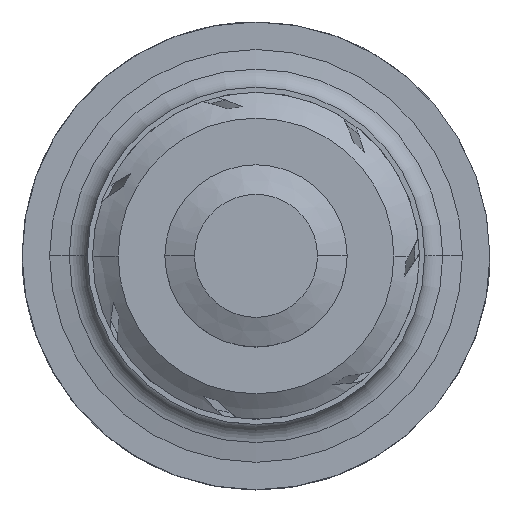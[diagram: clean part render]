
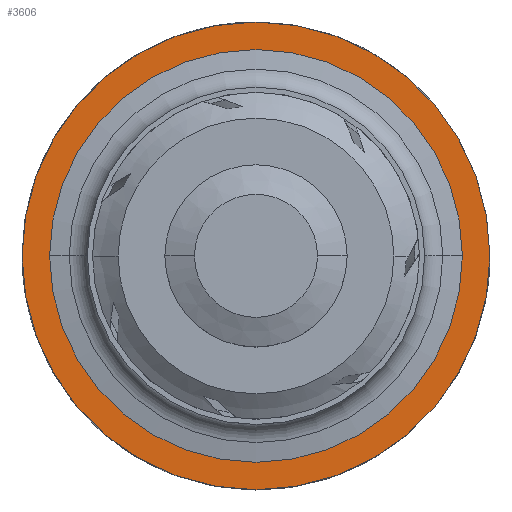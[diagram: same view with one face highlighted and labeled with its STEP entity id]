
A CAD part, top view. The second image highlights one B-rep face of the part: STEP entity #3606.
In plain terms, the highlighted planar face has unit normal (0, 0, 1).
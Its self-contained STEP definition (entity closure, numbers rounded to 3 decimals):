
#28 = CIRCLE ( 'NONE', #3179, 83.832 ) ;
#137 = DIRECTION ( 'NONE',  ( 1., 0., 0. ) ) ;
#318 = PLANE ( 'NONE',  #2038 ) ;
#783 = CARTESIAN_POINT ( 'NONE',  ( -95., 0., 70.5 ) ) ;
#1080 = ORIENTED_EDGE ( 'NONE', *, *, #3184, .T. ) ;
#1111 = CIRCLE ( 'NONE', #2235, 95. ) ;
#1631 = CARTESIAN_POINT ( 'NONE',  ( 0., 95., 70.5 ) ) ;
#1742 = DIRECTION ( 'NONE',  ( 1., 0., 0. ) ) ;
#2038 = AXIS2_PLACEMENT_3D ( 'NONE', #1631, #9118, #12013 ) ;
#2235 = AXIS2_PLACEMENT_3D ( 'NONE', #7133, #10233, #1742 ) ;
#2600 = EDGE_LOOP ( 'NONE', ( #2678, #6849 ) ) ;
#2606 = EDGE_CURVE ( 'NONE', #7968, #6678, #28, .T. ) ;
#2671 = FACE_OUTER_BOUND ( 'NONE', #9148, .T. ) ;
#2678 = ORIENTED_EDGE ( 'NONE', *, *, #5670, .F. ) ;
#2860 = DIRECTION ( 'NONE',  ( 0., 0., 1. ) ) ;
#3179 = AXIS2_PLACEMENT_3D ( 'NONE', #13470, #2860, #5942 ) ;
#3184 = EDGE_CURVE ( 'NONE', #11132, #13882, #5594, .T. ) ;
#3606 = ADVANCED_FACE ( 'NONE', ( #2671, #6947 ), #318, .F. ) ;
#4031 = EDGE_CURVE ( 'NONE', #13882, #11132, #1111, .T. ) ;
#4744 = CIRCLE ( 'NONE', #12607, 83.832 ) ;
#5447 = CARTESIAN_POINT ( 'NONE',  ( 0., 0., 70.5 ) ) ;
#5594 = CIRCLE ( 'NONE', #11659, 95. ) ;
#5670 = EDGE_CURVE ( 'NONE', #6678, #7968, #4744, .T. ) ;
#5942 = DIRECTION ( 'NONE',  ( 1., 0., 0. ) ) ;
#6028 = CARTESIAN_POINT ( 'NONE',  ( -83.832, 0., 70.5 ) ) ;
#6678 = VERTEX_POINT ( 'NONE', #6028 ) ;
#6837 = CARTESIAN_POINT ( 'NONE',  ( 0., 0., 70.5 ) ) ;
#6849 = ORIENTED_EDGE ( 'NONE', *, *, #2606, .F. ) ;
#6947 = FACE_BOUND ( 'NONE', #2600, .T. ) ;
#7133 = CARTESIAN_POINT ( 'NONE',  ( 0., 0., 70.5 ) ) ;
#7485 = ORIENTED_EDGE ( 'NONE', *, *, #4031, .T. ) ;
#7752 = DIRECTION ( 'NONE',  ( 1., 0., 0. ) ) ;
#7968 = VERTEX_POINT ( 'NONE', #8547 ) ;
#8547 = CARTESIAN_POINT ( 'NONE',  ( 83.832, 0., 70.5 ) ) ;
#8552 = CARTESIAN_POINT ( 'NONE',  ( 95., 0., 70.5 ) ) ;
#8737 = DIRECTION ( 'NONE',  ( 0., 0., 1. ) ) ;
#9118 = DIRECTION ( 'NONE',  ( 0., 0., -1. ) ) ;
#9148 = EDGE_LOOP ( 'NONE', ( #1080, #7485 ) ) ;
#9734 = DIRECTION ( 'NONE',  ( 0., 0., 1. ) ) ;
#10233 = DIRECTION ( 'NONE',  ( 0., 0., 1. ) ) ;
#11132 = VERTEX_POINT ( 'NONE', #8552 ) ;
#11659 = AXIS2_PLACEMENT_3D ( 'NONE', #5447, #9734, #137 ) ;
#12013 = DIRECTION ( 'NONE',  ( -1., 0., 0. ) ) ;
#12607 = AXIS2_PLACEMENT_3D ( 'NONE', #6837, #8737, #7752 ) ;
#13470 = CARTESIAN_POINT ( 'NONE',  ( 0., 0., 70.5 ) ) ;
#13882 = VERTEX_POINT ( 'NONE', #783 ) ;
